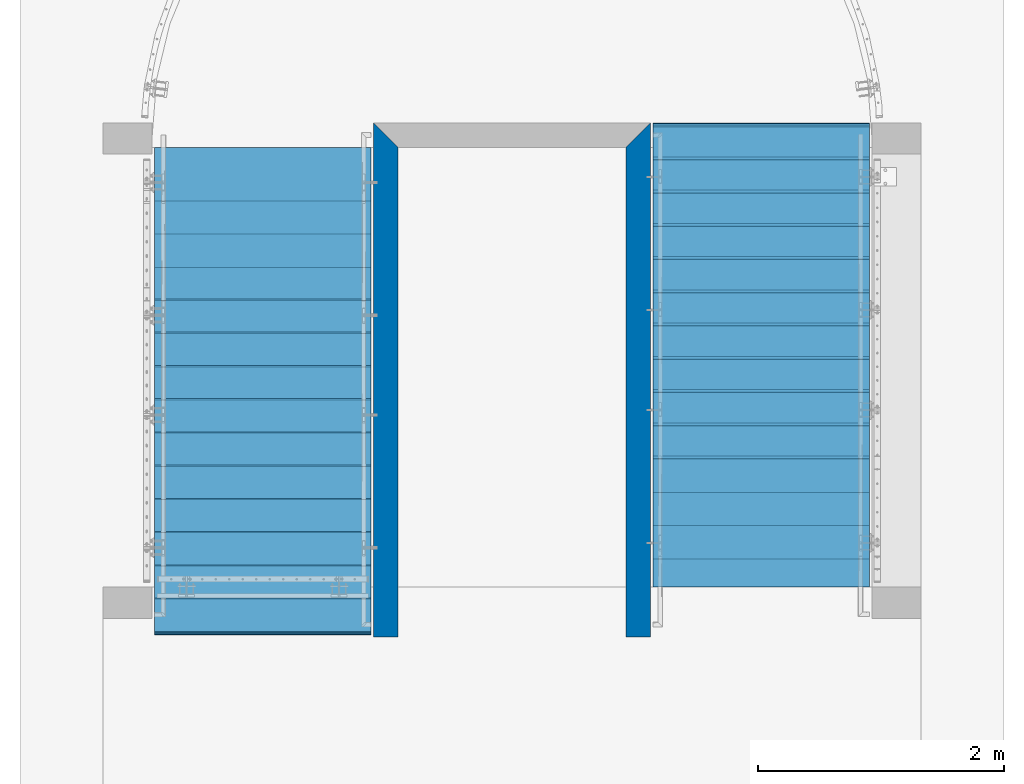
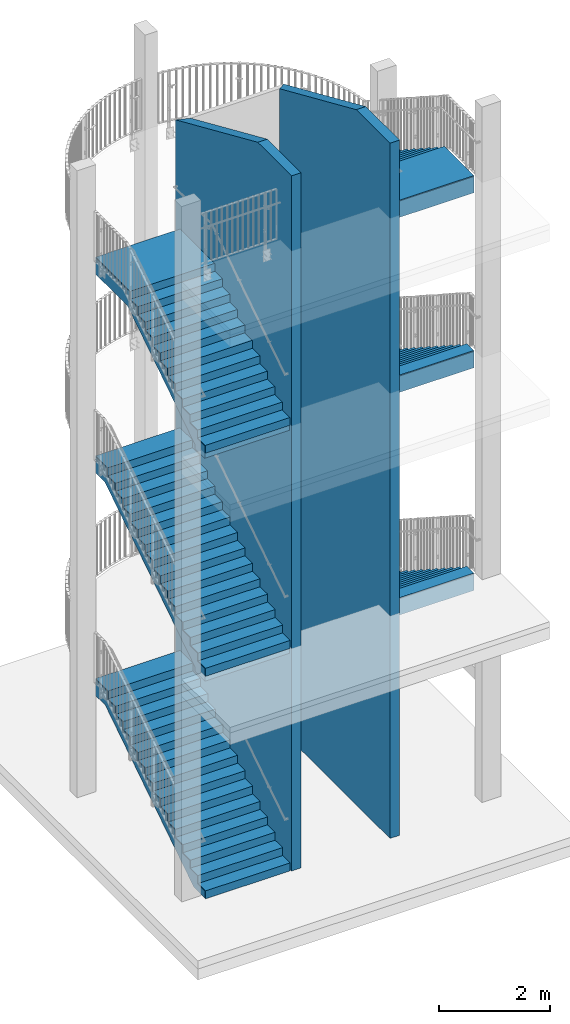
# One storey, part 126 of 296: 14 walls, 28 openings.
"""IFC2X3 building model written with IfcOpenShell, lengths in millimetres."""

from ifc_helpers import new_model, entity, si_unit, converted_unit, frame, origin, origin_with_axes, place, context, project, spatial, polyline, outline, extrude, material, layer, layer_set, element, save


model = new_model("IFC2X3")

# Units and contexts
model_context = context("Model", 3, precision=1e-09, world=origin_with_axes())
ifc_project = project(units=[si_unit("LENGTHUNIT", "METRE", prefix="MILLI"), si_unit("AREAUNIT", "SQUARE_METRE"), si_unit("VOLUMEUNIT", "CUBIC_METRE"), converted_unit("PLANEANGLEUNIT", "DEGREE", entity("IfcPlaneAngleMeasure", 0.01745329), si_unit("PLANEANGLEUNIT", "RADIAN"), dimensions=[0, 0, 0, 0, 0, 0, 0])], contexts=[model_context])

# Site, building, storey
site_placement = place(None, origin_with_axes())
site = spatial("IfcSite", under=ifc_project, at=site_placement, Name="TZD-S?d | Treppenhausgel?nder", CompositionType="ELEMENT")
building_placement = place(site_placement, origin_with_axes())
building = spatial("IfcBuilding", under=site, at=building_placement, Name="Struktur 1", CompositionType="ELEMENT")
storey_placement = place(building_placement, origin_with_axes())
storey = spatial("IfcBuildingStorey", under=building, at=storey_placement, Name="Default Storey", CompositionType="ELEMENT", Elevation=0.0)

# Wall, openings
ifc_material = material(Name="C25/30")
ifc_layer_1 = layer(ifc_material, 1760.0)
ifc_layer_set_1 = layer_set([ifc_layer_1], Name="C25/30")
wall_1_placement = place(None, frame((20.0, -2172.866344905, 6055.0), z_axis=(1.0, 0.0, 0.0), x_axis=(0.0, 1.0, 0.0)))
wall_1 = element("IfcWall", 1, at=wall_1_placement, inside=storey, material=ifc_layer_set_1, Name="-", ObjectType="-", context=model_context, shape_type="SweptSolid", body=[
    extrude(outline(polyline([(-1972.866344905, -1275.0), (1972.866344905, -1275.0), (1972.866344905, 1275.0), (-1972.866344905, 1275.0), (-1972.866344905, -1275.0)])), origin_with_axes(), (0.0, 0.0, 1.0), 1760.0),
])
opening_1_placement = place(wall_1_placement, frame((0.0, 0.0, 1760.1), z_axis=(0.0, 0.0, -1.0), x_axis=(-1.0, 0.0, 0.0)))
element("IfcOpeningElement", 2, at=opening_1_placement, cuts=wall_1, ObjectType="Opening", context=model_context, shape_type="SweptSolid", body=[
    extrude(outline(polyline([(-1552.867344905, 1366.369632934), (-1552.867344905, 1099.999), (-1281.657137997, 1099.999), (-1281.657137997, 924.999), (-1010.446931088, 924.999), (-1010.446931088, 749.999), (-739.23672418, 749.999), (-739.23672418, 574.999), (-468.026517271, 574.999), (-468.026517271, 399.999), (-196.816310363, 399.999), (-196.816310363, 224.999), (74.393896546, 224.999), (74.393896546, 49.999), (345.604103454, 49.999), (345.604103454, -125.001), (616.814310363, -125.001), (616.814310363, -300.001), (888.024517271, -300.001), (888.024517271, -475.001), (1159.23472418, -475.001), (1159.23472418, -650.001), (1430.444931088, -650.001), (1430.444931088, -825.001), (1701.655137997, -825.001), (1701.655137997, -1000.001), (2598.43118113, -1000.001), (2598.43118113, 1576.909110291), (-1552.867344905, 1366.369632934)])), origin(), (0.0, 0.0, 1.0), 1760.2),
])
opening_2_placement = place(wall_1_placement, frame((0.0, 0.0, 1760.1), z_axis=(0.0, 0.0, -1.0), x_axis=(-1.0, 0.0, 0.0)))
element("IfcOpeningElement", 3, at=opening_2_placement, cuts=wall_1, ObjectType="Opening", context=model_context, shape_type="SweptSolid", body=[
    extrude(outline(polyline([(-2711.832113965, -1837.460148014), (1602.135655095, -1837.460148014), (1602.135655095, -1175.782626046), (-1638.103543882, 915.001), (-2706.622743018, 915.001), (-2711.832113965, -1837.460148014)])), origin(), (0.0, 0.0, 1.0), 1760.2),
])

wall_2_placement = place(None, frame((20.0, -2166.972127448, 10692.5), z_axis=(1.0, 0.0, 0.0), x_axis=(0.0, 1.0, 0.0)))
wall_2 = element("IfcWall", 4, at=wall_2_placement, inside=storey, material=ifc_layer_set_1, Name="-", ObjectType="-", context=model_context, shape_type="SweptSolid", body=[
    extrude(outline(polyline([(-1966.970713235, -1012.5), (1966.970713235, -1012.5), (1966.970713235, 1012.5), (-1966.970713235, 1012.5), (-1966.970713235, -1012.5)])), origin_with_axes(), (0.0, 0.0, 1.0), 1760.0),
])
opening_3_placement = place(wall_2_placement, frame((0.0, 0.0, 1760.1), z_axis=(0.0, 0.0, -1.0), x_axis=(-1.0, 0.0, 0.0)))
element("IfcOpeningElement", 5, at=opening_3_placement, cuts=wall_2, ObjectType="Opening", context=model_context, shape_type="SweptSolid", body=[
    extrude(outline(polyline([(-735.973127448, 1203.129344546), (-735.973127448, 837.499), (-465.67884338, 837.499), (-465.67884338, 662.499), (-195.384559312, 662.499), (-195.384559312, 487.499), (74.909724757, 487.499), (74.909724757, 312.499), (345.204008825, 312.499), (345.204008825, 137.499), (615.498292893, 137.499), (615.498292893, -37.501), (885.792576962, -37.501), (885.792576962, -212.501), (1156.08686103, -212.501), (1156.08686103, -387.501), (1426.381145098, -387.501), (1426.381145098, -562.501), (1696.675429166, -562.501), (1696.675429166, -737.501), (2528.026344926, -737.501), (2528.026344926, 1295.99792271), (-735.973127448, 1203.129344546)])), origin(), (0.0, 0.0, 1.0), 1760.2),
])
opening_4_placement = place(wall_2_placement, frame((0.0, 0.0, 1760.1), z_axis=(0.0, 0.0, -1.0), x_axis=(-1.0, 0.0, 0.0)))
element("IfcOpeningElement", 6, at=opening_4_placement, cuts=wall_2, ObjectType="Opening", context=model_context, shape_type="SweptSolid", body=[
    extrude(outline(polyline([(-2510.673036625, -1435.361262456), (1608.028872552, -1435.361262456), (1608.028872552, -920.104615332), (-820.921464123, 652.501), (-2588.534366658, 652.501), (-2510.673036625, -1435.361262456)])), origin(), (0.0, 0.0, 1.0), 1760.2),
])

wall_3_placement = place(None, frame((4069.999, -1898.206041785, 3605.0), z_axis=(1.0, 0.0, 0.0), x_axis=(0.0, 1.0, 0.0)))
wall_3 = element("IfcWall", 7, at=wall_3_placement, inside=storey, material=ifc_layer_set_1, Name="-", ObjectType="-", context=model_context, shape_type="SweptSolid", body=[
    extrude(outline(polyline([(-1876.794958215, -1275.0), (1876.794958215, -1275.0), (1876.794958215, 1275.0), (-1876.794958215, 1275.0), (-1876.794958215, -1275.0)])), origin_with_axes(), (0.0, 0.0, 1.0), 1760.0),
])
opening_5_placement = place(wall_3_placement, frame((0.0, 0.0, 1760.1), z_axis=(0.0, 0.0, -1.0), x_axis=(-1.0, 0.0, 0.0)))
element("IfcOpeningElement", 8, at=opening_5_placement, cuts=wall_3, ObjectType="Opening", context=model_context, shape_type="SweptSolid", body=[
    extrude(outline(polyline([(2514.867933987, 915.001), (1726.859474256, 915.001), (-1660.267347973, -1274.999455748), (-1660.267347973, -1434.260811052), (2514.867933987, -1434.260811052), (2514.867933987, 915.001)])), origin(), (0.0, 0.0, 1.0), 1760.2),
])
opening_6_placement = place(wall_3_placement, frame((0.0, 0.0, 1760.1), z_axis=(0.0, 0.0, -1.0), x_axis=(-1.0, 0.0, 0.0)))
element("IfcOpeningElement", 9, at=opening_6_placement, cuts=wall_3, ObjectType="Opening", context=model_context, shape_type="SweptSolid", body=[
    extrude(outline(polyline([(-2181.519414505, 1924.922674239), (-2181.519414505, -1000.001), (-1606.133195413, -1000.001), (-1606.133195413, -825.001), (-1335.47243261, -825.001), (-1335.47243261, -650.001), (-1064.811669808, -650.001), (-1064.811669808, -475.001), (-794.150907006, -475.001), (-794.150907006, -300.001), (-523.490144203, -300.001), (-523.490144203, -125.001), (-252.829381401, -125.001), (-252.829381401, 49.999), (17.831381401, 49.999), (17.831381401, 224.999), (288.492144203, 224.999), (288.492144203, 399.999), (559.152907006, 399.999), (559.152907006, 574.999), (829.813669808, 574.999), (829.813669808, 749.999), (1100.47443261, 749.999), (1100.47443261, 924.999), (1371.135195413, 924.999), (1371.135195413, 1099.999), (1641.795958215, 1099.999), (1641.795958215, 1365.72308569), (-2181.519414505, 1924.922674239)])), origin(), (0.0, 0.0, 1.0), 1760.2),
])

wall_4_placement = place(None, frame((4069.999, -1903.683830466, 8505.0), z_axis=(1.0, 0.0, 0.0), x_axis=(0.0, 1.0, 0.0)))
wall_4 = element("IfcWall", 10, at=wall_4_placement, inside=storey, material=ifc_layer_set_1, Name="-", ObjectType="-", context=model_context, shape_type="SweptSolid", body=[
    extrude(outline(polyline([(-1871.317169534, -1275.0), (1871.317169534, -1275.0), (1871.317169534, 1275.0), (-1871.317169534, 1275.0), (-1871.317169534, -1275.0)])), origin_with_axes(), (0.0, 0.0, 1.0), 1760.0),
])
opening_7_placement = place(wall_4_placement, frame((0.0, 0.0, 1760.1), z_axis=(0.0, 0.0, -1.0), x_axis=(-1.0, 0.0, 0.0)))
element("IfcOpeningElement", 11, at=opening_7_placement, cuts=wall_4, ObjectType="Opening", context=model_context, shape_type="SweptSolid", body=[
    extrude(outline(polyline([(2469.832416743, 915.001), (1726.237704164, 915.001), (-1655.156056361, -1274.999456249), (-1655.156056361, -1435.384010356), (2469.832416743, -1435.384010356), (2469.832416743, 915.001)])), origin(), (0.0, 0.0, 1.0), 1760.2),
])
opening_8_placement = place(wall_4_placement, frame((0.0, 0.0, 1760.1), z_axis=(0.0, 0.0, -1.0), x_axis=(-1.0, 0.0, 0.0)))
element("IfcOpeningElement", 12, at=opening_8_placement, cuts=wall_4, ObjectType="Opening", context=model_context, shape_type="SweptSolid", body=[
    extrude(outline(polyline([(-2396.875151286, 1543.480851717), (-2396.875151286, -1000.001), (-1601.113528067, -1000.001), (-1601.113528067, -825.001), (-1330.9108866, -825.001), (-1330.9108866, -650.001), (-1060.708245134, -650.001), (-1060.708245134, -475.001), (-790.505603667, -475.001), (-790.505603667, -300.001), (-520.3029622, -300.001), (-520.3029622, -125.001), (-250.100320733, -125.001), (-250.100320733, 49.999), (20.102320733, 49.999), (20.102320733, 224.999), (290.3049622, 224.999), (290.3049622, 399.999), (560.507603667, 399.999), (560.507603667, 574.999), (830.710245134, 574.999), (830.710245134, 749.999), (1100.9128866, 749.999), (1100.9128866, 924.999), (1371.115528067, 924.999), (1371.115528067, 1099.999), (1641.318169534, 1099.999), (1641.318169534, 1358.337140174), (-2396.875151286, 1543.480851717)])), origin(), (0.0, 0.0, 1.0), 1760.2),
])

wall_5_placement = place(None, frame((4069.999, -1901.029579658, 12617.5), z_axis=(1.0, 0.0, 0.0), x_axis=(0.0, 1.0, 0.0)))
wall_5 = element("IfcWall", 13, at=wall_5_placement, inside=storey, material=ifc_layer_set_1, Name="-", ObjectType="-", context=model_context, shape_type="SweptSolid", body=[
    extrude(outline(polyline([(-1873.971420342, -1012.5), (1873.971420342, -1012.5), (1873.971420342, 1012.5), (-1873.971420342, 1012.5), (-1873.971420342, -1012.5)])), origin_with_axes(), (0.0, 0.0, 1.0), 1760.0),
])
opening_9_placement = place(wall_5_placement, frame((0.0, 0.0, 1760.1), z_axis=(0.0, 0.0, -1.0), x_axis=(-1.0, 0.0, 0.0)))
element("IfcOpeningElement", 14, at=opening_9_placement, cuts=wall_5, ObjectType="Opening", context=model_context, shape_type="SweptSolid", body=[
    extrude(outline(polyline([(2382.862509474, 652.501), (913.920757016, 652.501), (-1657.736993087, -1012.499456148), (-1657.736993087, -1431.84199082), (2382.862509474, -1431.84199082), (2382.862509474, 652.501)])), origin(), (0.0, 0.0, 1.0), 1760.2),
])
opening_10_placement = place(wall_5_placement, frame((0.0, 0.0, 1760.1), z_axis=(0.0, 0.0, -1.0), x_axis=(-1.0, 0.0, 0.0)))
element("IfcOpeningElement", 15, at=opening_10_placement, cuts=wall_5, ObjectType="Opening", context=model_context, shape_type="SweptSolid", body=[
    extrude(outline(polyline([(828.972420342, 1914.510952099), (-2495.314000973, 1914.510952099), (-2495.314000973, -737.501), (-1603.676136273, -737.501), (-1603.676136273, -562.501), (-1333.381852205, -562.501), (-1333.381852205, -387.501), (-1063.087568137, -387.501), (-1063.087568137, -212.501), (-792.793284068, -212.501), (-792.793284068, -37.501), (-522.499, -37.501), (-522.499, 137.499), (-252.204715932, 137.499), (-252.204715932, 312.499), (18.089568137, 312.499), (18.089568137, 487.499), (288.383852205, 487.499), (288.383852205, 662.499), (558.678136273, 662.499), (558.678136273, 837.499), (828.972420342, 837.499), (828.972420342, 1914.510952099)])), origin(), (0.0, 0.0, 1.0), 1760.2),
])

wall_6_placement = place(None, frame((20.0, -2180.837888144, 1225.0), z_axis=(1.0, 0.0, 0.0), x_axis=(0.0, 1.0, 0.0)))
wall_6 = element("IfcWall", 16, at=wall_6_placement, inside=storey, material=ifc_layer_set_1, Name="-", ObjectType="-", context=model_context, shape_type="SweptSolid", body=[
    extrude(outline(polyline([(-1980.837888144, -1225.0), (1980.837888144, -1225.0), (1980.837888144, 1225.0), (-1980.837888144, 1225.0), (-1980.837888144, -1225.0)])), origin_with_axes(), (0.0, 0.0, 1.0), 1760.0),
])
opening_11_placement = place(wall_6_placement, frame((0.0, 0.0, 1760.1), z_axis=(0.0, 0.0, -1.0), x_axis=(-1.0, 0.0, 0.0)))
element("IfcOpeningElement", 17, at=opening_11_placement, cuts=wall_6, ObjectType="Opening", context=model_context, shape_type="SweptSolid", body=[
    extrude(outline(polyline([(-1525.838888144, 1318.413036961), (-1525.838888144, 1049.999), (-1256.09459766, 1049.999), (-1256.09459766, 874.999), (-986.350307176, 874.999), (-986.350307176, 699.999), (-716.606016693, 699.999), (-716.606016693, 524.999), (-446.861726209, 524.999), (-446.861726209, 349.999), (-177.117435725, 349.999), (-177.117435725, 174.999), (92.626854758, 174.999), (92.626854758, -0.001), (362.371145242, -0.001), (362.371145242, -175.001), (632.115435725, -175.001), (632.115435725, -350.001), (901.859726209, -350.001), (901.859726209, -525.001), (1171.604016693, -525.001), (1171.604016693, -700.001), (1441.348307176, -700.001), (1441.348307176, -875.001), (1711.09259766, -875.001), (1711.09259766, -1050.001), (2427.447037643, -1050.001), (2427.447037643, 1541.810354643), (-1525.838888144, 1318.413036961)])), origin(), (0.0, 0.0, 1.0), 1760.2),
])
opening_12_placement = place(wall_6_placement, frame((0.0, 0.0, 1760.1), z_axis=(0.0, 0.0, -1.0), x_axis=(-1.0, 0.0, 0.0)))
element("IfcOpeningElement", 18, at=opening_12_placement, cuts=wall_6, ObjectType="Opening", context=model_context, shape_type="SweptSolid", body=[
    extrude(outline(polyline([(1960.838888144, -1069.999), (1691.09459766, -1069.999), (1691.09459766, -894.999), (1421.350307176, -894.999), (1421.350307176, -719.999), (1151.606016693, -719.999), (1151.606016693, -544.999), (881.861726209, -544.999), (881.861726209, -369.999), (612.117435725, -369.999), (612.117435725, -194.999), (342.373145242, -194.999), (342.373145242, -19.999), (72.628854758, -19.999), (72.628854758, 155.001), (-197.115435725, 155.001), (-197.115435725, 330.001), (-466.859726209, 330.001), (-466.859726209, 505.001), (-736.604016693, 505.001), (-736.604016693, 680.001), (-1006.348307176, 680.001), (-1006.348307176, 855.001), (-1276.09259766, 855.001), (-1276.09259766, 1030.001), (-1545.836888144, 1030.001), (-1545.836888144, 1205.001), (-3026.363610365, 1205.001), (-3026.363610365, -1714.638525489), (1960.838888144, -1714.638525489), (1960.838888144, -1069.999)])), origin(), (0.0, 0.0, 1.0), 1760.2),
])

wall_7_placement = place(None, frame((20.0, -2182.866344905, 6125.0), z_axis=(1.0, 0.0, 0.0), x_axis=(0.0, 1.0, 0.0)))
wall_7 = element("IfcWall", 19, at=wall_7_placement, inside=storey, material=ifc_layer_set_1, Name="-", ObjectType="-", context=model_context, shape_type="SweptSolid", body=[
    extrude(outline(polyline([(-1982.866344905, -1225.0), (1982.866344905, -1225.0), (1982.866344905, 1225.0), (-1982.866344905, 1225.0), (-1982.866344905, -1225.0)])), origin_with_axes(), (0.0, 0.0, 1.0), 1760.0),
])
opening_13_placement = place(wall_7_placement, frame((0.0, 0.0, 1760.1), z_axis=(0.0, 0.0, -1.0), x_axis=(-1.0, 0.0, 0.0)))
element("IfcOpeningElement", 20, at=opening_13_placement, cuts=wall_7, ObjectType="Opening", context=model_context, shape_type="SweptSolid", body=[
    extrude(outline(polyline([(-1542.867344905, 1316.369632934), (-1542.867344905, 1049.999), (-1271.657137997, 1049.999), (-1271.657137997, 874.999), (-1000.446931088, 874.999), (-1000.446931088, 699.999), (-729.23672418, 699.999), (-729.23672418, 524.999), (-458.026517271, 524.999), (-458.026517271, 349.999), (-186.816310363, 349.999), (-186.816310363, 174.999), (84.393896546, 174.999), (84.393896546, -0.001), (355.604103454, -0.001), (355.604103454, -175.001), (626.814310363, -175.001), (626.814310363, -350.001), (898.024517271, -350.001), (898.024517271, -525.001), (1169.23472418, -525.001), (1169.23472418, -700.001), (1440.444931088, -700.001), (1440.444931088, -875.001), (1711.655137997, -875.001), (1711.655137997, -1050.001), (2608.43118113, -1050.001), (2608.43118113, 1526.909110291), (-1542.867344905, 1316.369632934)])), origin(), (0.0, 0.0, 1.0), 1760.2),
])
opening_14_placement = place(wall_7_placement, frame((0.0, 0.0, 1760.1), z_axis=(0.0, 0.0, -1.0), x_axis=(-1.0, 0.0, 0.0)))
element("IfcOpeningElement", 21, at=opening_14_placement, cuts=wall_7, ObjectType="Opening", context=model_context, shape_type="SweptSolid", body=[
    extrude(outline(polyline([(1962.867344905, -1069.999), (1691.657137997, -1069.999), (1691.657137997, -894.999), (1420.446931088, -894.999), (1420.446931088, -719.999), (1149.23672418, -719.999), (1149.23672418, -544.999), (878.026517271, -544.999), (878.026517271, -369.999), (606.816310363, -369.999), (606.816310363, -194.999), (335.606103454, -194.999), (335.606103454, -19.999), (64.395896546, -19.999), (64.395896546, 155.001), (-206.814310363, 155.001), (-206.814310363, 330.001), (-478.024517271, 330.001), (-478.024517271, 505.001), (-749.23472418, 505.001), (-749.23472418, 680.001), (-1020.444931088, 680.001), (-1020.444931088, 855.001), (-1291.655137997, 855.001), (-1291.655137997, 1030.001), (-1562.865344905, 1030.001), (-1562.865344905, 1205.001), (-3084.045010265, 1205.001), (-3084.045010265, -2229.882339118), (1962.867344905, -2229.882339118), (1962.867344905, -1069.999)])), origin(), (0.0, 0.0, 1.0), 1760.2),
])

wall_8_placement = place(None, frame((20.0, -2176.972127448, 10762.5), z_axis=(1.0, 0.0, 0.0), x_axis=(0.0, 1.0, 0.0)))
wall_8 = element("IfcWall", 22, at=wall_8_placement, inside=storey, material=ifc_layer_set_1, Name="-", ObjectType="-", context=model_context, shape_type="SweptSolid", body=[
    extrude(outline(polyline([(-1976.970713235, -962.5), (1976.970713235, -962.5), (1976.970713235, 962.5), (-1976.970713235, 962.5), (-1976.970713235, -962.5)])), origin_with_axes(), (0.0, 0.0, 1.0), 1760.0),
])
opening_15_placement = place(wall_8_placement, frame((0.0, 0.0, 1760.1), z_axis=(0.0, 0.0, -1.0), x_axis=(-1.0, 0.0, 0.0)))
element("IfcOpeningElement", 23, at=opening_15_placement, cuts=wall_8, ObjectType="Opening", context=model_context, shape_type="SweptSolid", body=[
    extrude(outline(polyline([(-728.973127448, 1153.129344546), (-728.973127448, 787.499), (-458.67884338, 787.499), (-458.67884338, 612.499), (-188.384559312, 612.499), (-188.384559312, 437.499), (81.909724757, 437.499), (81.909724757, 262.499), (352.204008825, 262.499), (352.204008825, 87.499), (622.498292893, 87.499), (622.498292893, -87.501), (892.792576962, -87.501), (892.792576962, -262.501), (1163.08686103, -262.501), (1163.08686103, -437.501), (1433.381145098, -437.501), (1433.381145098, -612.501), (1703.675429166, -612.501), (1703.675429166, -787.501), (2535.026344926, -787.501), (2535.026344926, 1245.99792271), (-728.973127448, 1153.129344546)])), origin(), (0.0, 0.0, 1.0), 1760.2),
])
opening_16_placement = place(wall_8_placement, frame((0.0, 0.0, 1760.1), z_axis=(0.0, 0.0, -1.0), x_axis=(-1.0, 0.0, 0.0)))
element("IfcOpeningElement", 24, at=opening_16_placement, cuts=wall_8, ObjectType="Opening", context=model_context, shape_type="SweptSolid", body=[
    extrude(outline(polyline([(1956.971713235, -807.499), (1686.677429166, -807.499), (1686.677429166, -632.499), (1416.383145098, -632.499), (1416.383145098, -457.499), (1146.08886103, -457.499), (1146.08886103, -282.499), (875.794576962, -282.499), (875.794576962, -107.499), (605.500292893, -107.499), (605.500292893, 67.501), (335.206008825, 67.501), (335.206008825, 242.501), (64.911724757, 242.501), (64.911724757, 417.501), (-205.382559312, 417.501), (-205.382559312, 592.501), (-475.67684338, 592.501), (-475.67684338, 767.501), (-745.971127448, 767.501), (-745.971127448, 942.501), (-2007.558013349, 942.501), (-2914.61213915, 932.78030925), (-2914.61213915, -1805.592745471), (1956.971713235, -1805.592745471), (1956.971713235, -807.499)])), origin(), (0.0, 0.0, 1.0), 1760.2),
])

wall_9_placement = place(None, frame((4069.999, -1888.205541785, 3675.0), z_axis=(1.0, 0.0, 0.0), x_axis=(0.0, 1.0, 0.0)))
wall_9 = element("IfcWall", 25, at=wall_9_placement, inside=storey, material=ifc_layer_set_1, Name="-", ObjectType="-", context=model_context, shape_type="SweptSolid", body=[
    extrude(outline(polyline([(-1886.794458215, -1225.0), (1886.794458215, -1225.0), (1886.794458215, 1225.0), (-1886.794458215, 1225.0), (-1886.794458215, -1225.0)])), origin_with_axes(), (0.0, 0.0, 1.0), 1760.0),
])
opening_17_placement = place(wall_9_placement, frame((0.0, 0.0, 1760.1), z_axis=(0.0, 0.0, -1.0), x_axis=(-1.0, 0.0, 0.0)))
element("IfcOpeningElement", 26, at=opening_17_placement, cuts=wall_9, ObjectType="Opening", context=model_context, shape_type="SweptSolid", body=[
    extrude(outline(polyline([(-2191.519414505, 1874.922674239), (-2191.519414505, -1050.001), (-1616.133195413, -1050.001), (-1616.133195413, -875.001), (-1345.47243261, -875.001), (-1345.47243261, -700.001), (-1074.811669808, -700.001), (-1074.811669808, -525.001), (-804.150907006, -525.001), (-804.150907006, -350.001), (-533.490144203, -350.001), (-533.490144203, -175.001), (-262.829381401, -175.001), (-262.829381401, -0.001), (7.831381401, -0.001), (7.831381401, 174.999), (278.492144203, 174.999), (278.492144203, 349.999), (549.152907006, 349.999), (549.152907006, 524.999), (819.813669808, 524.999), (819.813669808, 699.999), (1090.47443261, 699.999), (1090.47443261, 874.999), (1361.135195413, 874.999), (1361.135195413, 1049.999), (1631.795958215, 1049.999), (1631.795958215, 1315.72308569), (-2191.519414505, 1874.922674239)])), origin(), (0.0, 0.0, 1.0), 1760.2),
])
opening_18_placement = place(wall_9_placement, frame((0.0, 0.0, 1760.1), z_axis=(0.0, 0.0, -1.0), x_axis=(-1.0, 0.0, 0.0)))
element("IfcOpeningElement", 27, at=opening_18_placement, cuts=wall_9, ObjectType="Opening", context=model_context, shape_type="SweptSolid", body=[
    extrude(outline(polyline([(-1866.795958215, -2010.061372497), (2859.287583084, -2010.061372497), (2859.287583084, 1205.001), (1651.793958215, 1205.001), (1651.793958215, 1030.001), (1381.133195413, 1030.001), (1381.133195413, 855.001), (1110.47243261, 855.001), (1110.47243261, 680.001), (839.811669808, 680.001), (839.811669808, 505.001), (569.150907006, 505.001), (569.150907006, 330.001), (298.490144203, 330.001), (298.490144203, 155.001), (27.829381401, 155.001), (27.829381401, -19.999), (-242.831381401, -19.999), (-242.831381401, -194.999), (-513.492144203, -194.999), (-513.492144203, -369.999), (-784.152907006, -369.999), (-784.152907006, -544.999), (-1054.813669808, -544.999), (-1054.813669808, -719.999), (-1325.47443261, -719.999), (-1325.47443261, -894.999), (-1596.135195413, -894.999), (-1596.135195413, -1069.999), (-1866.795958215, -1069.999), (-1866.795958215, -2010.061372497)])), origin(), (0.0, 0.0, 1.0), 1760.2),
])

wall_10_placement = place(None, frame((4069.999, -1893.683330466, 8575.0), z_axis=(1.0, 0.0, 0.0), x_axis=(0.0, 1.0, 0.0)))
wall_10 = element("IfcWall", 28, at=wall_10_placement, inside=storey, material=ifc_layer_set_1, Name="-", ObjectType="-", context=model_context, shape_type="SweptSolid", body=[
    extrude(outline(polyline([(-1881.316669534, -1225.0), (1881.316669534, -1225.0), (1881.316669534, 1225.0), (-1881.316669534, 1225.0), (-1881.316669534, -1225.0)])), origin_with_axes(), (0.0, 0.0, 1.0), 1760.0),
])
opening_19_placement = place(wall_10_placement, frame((0.0, 0.0, 1760.1), z_axis=(0.0, 0.0, -1.0), x_axis=(-1.0, 0.0, 0.0)))
element("IfcOpeningElement", 29, at=opening_19_placement, cuts=wall_10, ObjectType="Opening", context=model_context, shape_type="SweptSolid", body=[
    extrude(outline(polyline([(-2406.875151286, 1493.480851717), (-2406.875151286, -1050.001), (-1611.113528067, -1050.001), (-1611.113528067, -875.001), (-1340.9108866, -875.001), (-1340.9108866, -700.001), (-1070.708245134, -700.001), (-1070.708245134, -525.001), (-800.505603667, -525.001), (-800.505603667, -350.001), (-530.3029622, -350.001), (-530.3029622, -175.001), (-260.100320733, -175.001), (-260.100320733, -0.001), (10.102320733, -0.001), (10.102320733, 174.999), (280.3049622, 174.999), (280.3049622, 349.999), (550.507603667, 349.999), (550.507603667, 524.999), (820.710245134, 524.999), (820.710245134, 699.999), (1090.9128866, 699.999), (1090.9128866, 874.999), (1361.115528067, 874.999), (1361.115528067, 1049.999), (1631.318169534, 1049.999), (1631.318169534, 1308.337140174), (-2406.875151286, 1493.480851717)])), origin(), (0.0, 0.0, 1.0), 1760.2),
])
opening_20_placement = place(wall_10_placement, frame((0.0, 0.0, 1760.1), z_axis=(0.0, 0.0, -1.0), x_axis=(-1.0, 0.0, 0.0)))
element("IfcOpeningElement", 30, at=opening_20_placement, cuts=wall_10, ObjectType="Opening", context=model_context, shape_type="SweptSolid", body=[
    extrude(outline(polyline([(-1861.318169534, -1933.962874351), (2764.017939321, -1933.962874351), (2764.017939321, 1205.001), (1651.316169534, 1205.001), (1651.316169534, 1030.001), (1381.113528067, 1030.001), (1381.113528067, 855.001), (1110.9108866, 855.001), (1110.9108866, 680.001), (840.708245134, 680.001), (840.708245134, 505.001), (570.505603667, 505.001), (570.505603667, 330.001), (300.3029622, 330.001), (300.3029622, 155.001), (30.100320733, 155.001), (30.100320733, -19.999), (-240.102320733, -19.999), (-240.102320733, -194.999), (-510.3049622, -194.999), (-510.3049622, -369.999), (-780.507603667, -369.999), (-780.507603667, -544.999), (-1050.710245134, -544.999), (-1050.710245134, -719.999), (-1320.9128866, -719.999), (-1320.9128866, -894.999), (-1591.115528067, -894.999), (-1591.115528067, -1069.999), (-1861.318169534, -1069.999), (-1861.318169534, -1933.962874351)])), origin(), (0.0, 0.0, 1.0), 1760.2),
])

wall_11_placement = place(None, frame((4069.999, -1891.029079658, 12687.5), z_axis=(1.0, 0.0, 0.0), x_axis=(0.0, 1.0, 0.0)))
wall_11 = element("IfcWall", 31, at=wall_11_placement, inside=storey, material=ifc_layer_set_1, Name="-", ObjectType="-", context=model_context, shape_type="SweptSolid", body=[
    extrude(outline(polyline([(-1883.970920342, -962.5), (1883.970920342, -962.5), (1883.970920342, 962.5), (-1883.970920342, 962.5), (-1883.970920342, -962.5)])), origin_with_axes(), (0.0, 0.0, 1.0), 1760.0),
])
opening_21_placement = place(wall_11_placement, frame((0.0, 0.0, 1760.1), z_axis=(0.0, 0.0, -1.0), x_axis=(-1.0, 0.0, 0.0)))
element("IfcOpeningElement", 32, at=opening_21_placement, cuts=wall_11, ObjectType="Opening", context=model_context, shape_type="SweptSolid", body=[
    extrude(outline(polyline([(818.972420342, 1864.510952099), (-2505.314000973, 1864.510952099), (-2505.314000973, -787.501), (-1613.676136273, -787.501), (-1613.676136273, -612.501), (-1343.381852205, -612.501), (-1343.381852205, -437.501), (-1073.087568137, -437.501), (-1073.087568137, -262.501), (-802.793284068, -262.501), (-802.793284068, -87.501), (-532.499, -87.501), (-532.499, 87.499), (-262.204715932, 87.499), (-262.204715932, 262.499), (8.089568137, 262.499), (8.089568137, 437.499), (278.383852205, 437.499), (278.383852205, 612.499), (548.678136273, 612.499), (548.678136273, 787.499), (818.972420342, 787.499), (818.972420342, 1864.510952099)])), origin(), (0.0, 0.0, 1.0), 1760.2),
])
opening_22_placement = place(wall_11_placement, frame((0.0, 0.0, 1760.1), z_axis=(0.0, 0.0, -1.0), x_axis=(-1.0, 0.0, 0.0)))
element("IfcOpeningElement", 33, at=opening_22_placement, cuts=wall_11, ObjectType="Opening", context=model_context, shape_type="SweptSolid", body=[
    extrude(outline(polyline([(-1863.972420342, -1822.59819871), (2629.293215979, -1822.59819871), (2629.293215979, 942.501), (838.970420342, 942.501), (838.970420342, 767.501), (568.676136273, 767.501), (568.676136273, 592.501), (298.381852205, 592.501), (298.381852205, 417.501), (28.087568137, 417.501), (28.087568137, 242.501), (-242.206715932, 242.501), (-242.206715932, 67.501), (-512.501, 67.501), (-512.501, -107.499), (-782.795284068, -107.499), (-782.795284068, -282.499), (-1053.089568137, -282.499), (-1053.089568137, -457.499), (-1323.383852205, -457.499), (-1323.383852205, -632.499), (-1593.678136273, -632.499), (-1593.678136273, -807.499), (-1863.972420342, -807.499), (-1863.972420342, -1822.59819871)])), origin(), (0.0, 0.0, 1.0), 1760.2),
])

ifc_layer_2 = layer(ifc_material, 200.0)
ifc_layer_set_2 = layer_set([ifc_layer_2], Name="C25/30")
wall_12_placement = place(None, frame((3850.0, -2090.0, 7650.0), z_axis=(1.0, 0.0, 0.0), x_axis=(0.0, 1.0, 0.0)))
wall_12 = element("IfcWall", 34, at=wall_12_placement, inside=storey, material=ifc_layer_set_2, Name="-", ObjectType="-", context=model_context, shape_type="SweptSolid", body=[
    extrude(outline(polyline([(-2090.0, -7650.0), (2090.0, -7650.0), (2090.0, 7650.0), (-2090.0, 7650.0), (-2090.0, -7650.0)])), origin_with_axes(), (0.0, 0.0, 1.0), 200.0),
])
opening_23_placement = place(wall_12_placement, frame((0.0, -7650.1, 100.0), z_axis=(0.0, 1.0, 0.0), x_axis=(-1.0, 0.0, 0.0)))
element("IfcOpeningElement", 35, at=opening_23_placement, cuts=wall_12, ObjectType="Opening", context=model_context, shape_type="SweptSolid", body=[
    extrude(outline(polyline([(-1613.478671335, -376.519914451), (-2418.39140662, 428.392820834), (-2418.39140662, -525.827953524), (-1613.478671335, -376.519914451)])), origin(), (0.0, 0.0, 1.0), 15300.2),
])
opening_24_placement = place(wall_12_placement, frame((0.0, 0.0, 200.1), z_axis=(0.0, 0.0, -1.0), x_axis=(-1.0, 0.0, 0.0)))
element("IfcOpeningElement", 36, at=opening_24_placement, cuts=wall_12, ObjectType="Opening", context=model_context, shape_type="SweptSolid", body=[
    extrude(outline(polyline([(-3380.646552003, 5780.488411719), (2872.383565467, 8529.223319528), (1933.760200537, 10664.47475945), (-4319.269916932, 7915.739851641), (-3380.646552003, 5780.488411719)])), origin(), (0.0, 0.0, 1.0), 200.2),
])

wall_13_placement = place(None, frame((2000.0, -2089.998585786, 7650.0), z_axis=(-1.0, 0.0, 0.0), x_axis=(0.0, -1.0, 0.0)))
wall_13 = element("IfcWall", 37, at=wall_13_placement, inside=storey, material=ifc_layer_set_2, Name="-", ObjectType="-", context=model_context, shape_type="SweptSolid", body=[
    extrude(outline(polyline([(-2090.0, -7650.0), (2090.0, -7650.0), (2090.0, 7650.0), (-2090.0, 7650.0), (-2090.0, -7650.0)])), origin_with_axes(), (0.0, 0.0, 1.0), 200.0),
])
opening_25_placement = place(wall_13_placement, frame((0.0, -7650.1, 100.0), z_axis=(0.0, 1.0, 0.0), x_axis=(1.0, 0.0, 0.0)))
element("IfcOpeningElement", 38, at=opening_25_placement, cuts=wall_13, ObjectType="Opening", context=model_context, shape_type="SweptSolid", body=[
    extrude(outline(polyline([(-2457.244184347, 501.383058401), (-2457.244184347, -467.24559856), (-1573.595158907, 416.403426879), (-2457.244184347, 501.383058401)])), origin(), (0.0, 0.0, 1.0), 15300.2),
])
opening_26_placement = place(wall_13_placement, frame((0.0, 0.0, -0.1), z_axis=(0.0, 0.0, 1.0), x_axis=(1.0, 0.0, 0.0)))
element("IfcOpeningElement", 39, at=opening_26_placement, cuts=wall_13, ObjectType="Opening", context=model_context, shape_type="SweptSolid", body=[
    extrude(outline(polyline([(-3380.645137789, 5780.488411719), (2872.38497968, 8529.223319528), (1933.761614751, 10664.47475945), (-4319.268502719, 7915.739851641), (-3380.645137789, 5780.488411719)])), origin(), (0.0, 0.0, 1.0), 200.2),
])

wall_14_placement = place(None, frame((20.0, -2170.837888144, 1215.0), z_axis=(1.0, 0.0, 0.0), x_axis=(0.0, 1.0, 0.0)))
wall_14 = element("IfcWall", 40, at=wall_14_placement, inside=storey, material=ifc_layer_set_1, Name="-", ObjectType="-", context=model_context, shape_type="SweptSolid", body=[
    extrude(outline(polyline([(-1970.837888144, -1215.0), (1970.837888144, -1215.0), (1970.837888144, 1215.0), (-1970.837888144, 1215.0), (-1970.837888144, -1215.0)])), origin_with_axes(), (0.0, 0.0, 1.0), 1760.0),
])
opening_27_placement = place(wall_14_placement, frame((0.0, 0.0, 1760.1), z_axis=(0.0, 0.0, -1.0), x_axis=(-1.0, 0.0, 0.0)))
element("IfcOpeningElement", 41, at=opening_27_placement, cuts=wall_14, ObjectType="Opening", context=model_context, shape_type="SweptSolid", body=[
    extrude(outline(polyline([(-1535.838888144, 1308.413036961), (-1535.838888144, 1039.999), (-1266.09459766, 1039.999), (-1266.09459766, 864.999), (-996.350307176, 864.999), (-996.350307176, 689.999), (-726.606016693, 689.999), (-726.606016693, 514.999), (-456.861726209, 514.999), (-456.861726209, 339.999), (-187.117435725, 339.999), (-187.117435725, 164.999), (82.626854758, 164.999), (82.626854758, -10.001), (352.371145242, -10.001), (352.371145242, -185.001), (622.115435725, -185.001), (622.115435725, -360.001), (891.859726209, -360.001), (891.859726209, -535.001), (1161.604016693, -535.001), (1161.604016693, -710.001), (1431.348307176, -710.001), (1431.348307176, -885.001), (1701.09259766, -885.001), (1701.09259766, -1060.001), (2417.447037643, -1060.001), (2417.447037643, 1531.810354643), (-1535.838888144, 1308.413036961)])), origin(), (0.0, 0.0, 1.0), 1760.2),
])
opening_28_placement = place(wall_14_placement, frame((0.0, 0.0, 1760.1), z_axis=(0.0, 0.0, -1.0), x_axis=(-1.0, 0.0, 0.0)))
element("IfcOpeningElement", 42, at=opening_28_placement, cuts=wall_14, ObjectType="Opening", context=model_context, shape_type="SweptSolid", body=[
    extrude(outline(polyline([(-2552.161288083, -1629.612699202), (1570.075942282, -1629.612699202), (1570.075942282, -1214.99945675), (-1620.614369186, 855.001), (-2613.691561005, 855.001), (-2552.161288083, -1629.612699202)])), origin(), (0.0, 0.0, 1.0), 1760.2),
])

save(model, "model.ifc")
